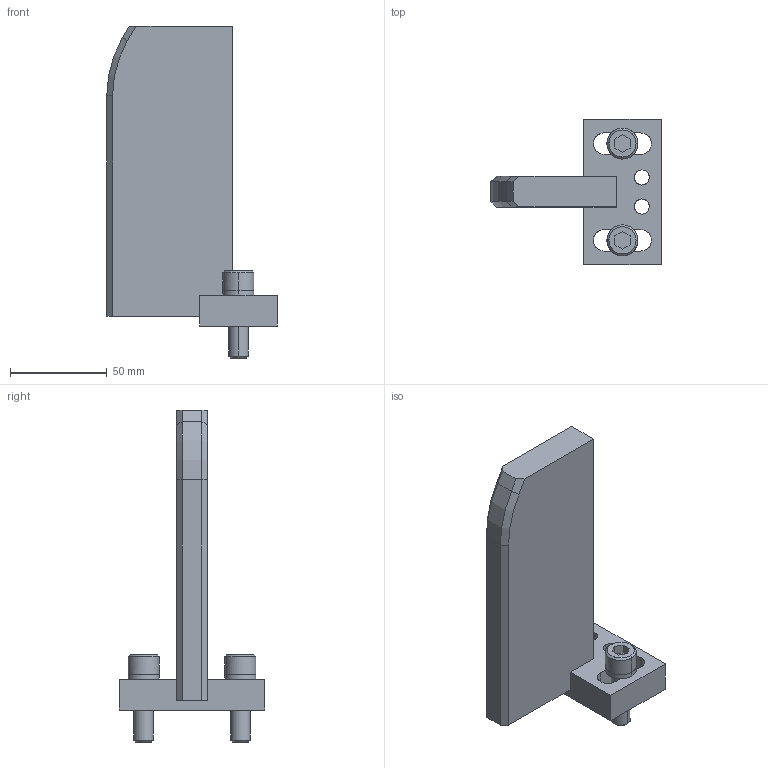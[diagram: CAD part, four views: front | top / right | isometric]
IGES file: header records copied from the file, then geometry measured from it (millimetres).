
Global section: file name: E:\UnigraphicsGraphicData\MISUMI_PRESS-PARTS\IGES\3d_ngwa-155-20-s65-m10_01577_r00.igs; native system: NX V5.0; preprocessor: UGS NX IGES V5.0; author: MISUMI; date: 20110105.162108; units: millimetre
Bounding box: 88 x 75 x 171.5 mm (x, y, z)
Surface area: 42640 mm2 (no closed solid volume)
Topology: 0 solids, 0 shells, 104 faces, 665 edges, 665 vertices
Faces by surface type: bspline 104
